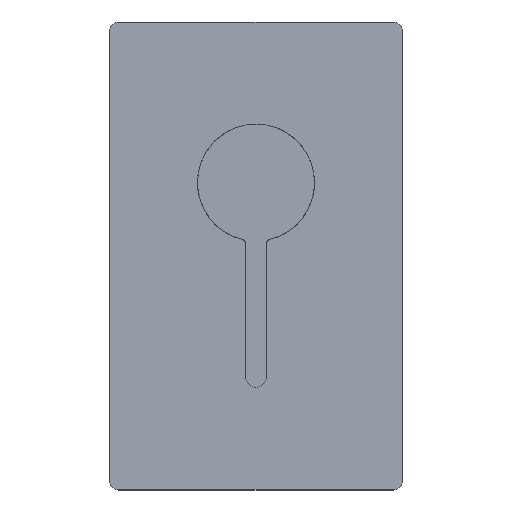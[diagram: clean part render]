
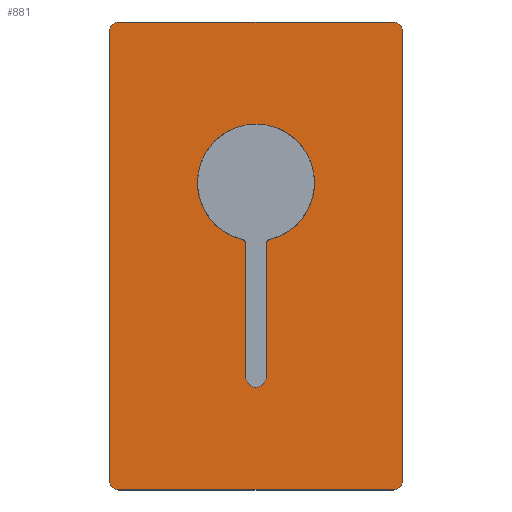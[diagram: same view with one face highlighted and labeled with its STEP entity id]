
A CAD part, top view. The second image highlights one B-rep face of the part: STEP entity #881.
In plain terms, the highlighted planar face has unit normal (0, 0, 1).
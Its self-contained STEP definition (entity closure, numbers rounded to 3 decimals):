
#881 = ADVANCED_FACE('',(#882),#952,.T.);
#882 = FACE_BOUND('',#883,.T.);
#883 = EDGE_LOOP('',(#884,#895,#903,#912,#920,#929,#937,#946));
#884 = ORIENTED_EDGE('',*,*,#885,.T.);
#885 = EDGE_CURVE('',#886,#888,#890,.T.);
#886 = VERTEX_POINT('',#887);
#887 = CARTESIAN_POINT('',(50.,77.,
    5.));
#888 = VERTEX_POINT('',#889);
#889 = CARTESIAN_POINT('',(47.,80.,
    5.));
#890 = CIRCLE('',#891,3.);
#891 = AXIS2_PLACEMENT_3D('',#892,#893,#894);
#892 = CARTESIAN_POINT('',(47.,77.,
    5.));
#893 = DIRECTION('',(0.,0.,1.));
#894 = DIRECTION('',(1.,0.,-0.));
#895 = ORIENTED_EDGE('',*,*,#896,.T.);
#896 = EDGE_CURVE('',#888,#897,#899,.T.);
#897 = VERTEX_POINT('',#898);
#898 = CARTESIAN_POINT('',(-47.,80.,
    5.));
#899 = LINE('',#900,#901);
#900 = CARTESIAN_POINT('',(47.,80.,
    5.));
#901 = VECTOR('',#902,1.);
#902 = DIRECTION('',(-1.,0.,0.));
#903 = ORIENTED_EDGE('',*,*,#904,.T.);
#904 = EDGE_CURVE('',#897,#905,#907,.T.);
#905 = VERTEX_POINT('',#906);
#906 = CARTESIAN_POINT('',(-50.,77.,
    5.));
#907 = CIRCLE('',#908,3.);
#908 = AXIS2_PLACEMENT_3D('',#909,#910,#911);
#909 = CARTESIAN_POINT('',(-47.,77.,
    5.));
#910 = DIRECTION('',(0.,0.,1.));
#911 = DIRECTION('',(1.,0.,-0.));
#912 = ORIENTED_EDGE('',*,*,#913,.T.);
#913 = EDGE_CURVE('',#905,#914,#916,.T.);
#914 = VERTEX_POINT('',#915);
#915 = CARTESIAN_POINT('',(-50.,-77.,
    5.));
#916 = LINE('',#917,#918);
#917 = CARTESIAN_POINT('',(-50.,77.,
    5.));
#918 = VECTOR('',#919,1.);
#919 = DIRECTION('',(0.,-1.,0.));
#920 = ORIENTED_EDGE('',*,*,#921,.T.);
#921 = EDGE_CURVE('',#914,#922,#924,.T.);
#922 = VERTEX_POINT('',#923);
#923 = CARTESIAN_POINT('',(-47.,-80.,
    5.));
#924 = CIRCLE('',#925,3.);
#925 = AXIS2_PLACEMENT_3D('',#926,#927,#928);
#926 = CARTESIAN_POINT('',(-47.,-77.,
    5.));
#927 = DIRECTION('',(0.,0.,1.));
#928 = DIRECTION('',(1.,0.,-0.));
#929 = ORIENTED_EDGE('',*,*,#930,.T.);
#930 = EDGE_CURVE('',#922,#931,#933,.T.);
#931 = VERTEX_POINT('',#932);
#932 = CARTESIAN_POINT('',(47.,-80.,
    5.));
#933 = LINE('',#934,#935);
#934 = CARTESIAN_POINT('',(-47.,-80.,
    5.));
#935 = VECTOR('',#936,1.);
#936 = DIRECTION('',(1.,0.,0.));
#937 = ORIENTED_EDGE('',*,*,#938,.T.);
#938 = EDGE_CURVE('',#931,#939,#941,.T.);
#939 = VERTEX_POINT('',#940);
#940 = CARTESIAN_POINT('',(50.,-77.,
    5.));
#941 = CIRCLE('',#942,3.);
#942 = AXIS2_PLACEMENT_3D('',#943,#944,#945);
#943 = CARTESIAN_POINT('',(47.,-77.,
    5.));
#944 = DIRECTION('',(0.,0.,1.));
#945 = DIRECTION('',(1.,0.,-0.));
#946 = ORIENTED_EDGE('',*,*,#947,.T.);
#947 = EDGE_CURVE('',#939,#886,#948,.T.);
#948 = LINE('',#949,#950);
#949 = CARTESIAN_POINT('',(50.,-77.,
    5.));
#950 = VECTOR('',#951,1.);
#951 = DIRECTION('',(0.,1.,0.));
#952 = PLANE('',#953);
#953 = AXIS2_PLACEMENT_3D('',#954,#955,#956);
#954 = CARTESIAN_POINT('',(50.,77.,
    5.));
#955 = DIRECTION('',(0.,0.,1.));
#956 = DIRECTION('',(0.,1.,0.));
